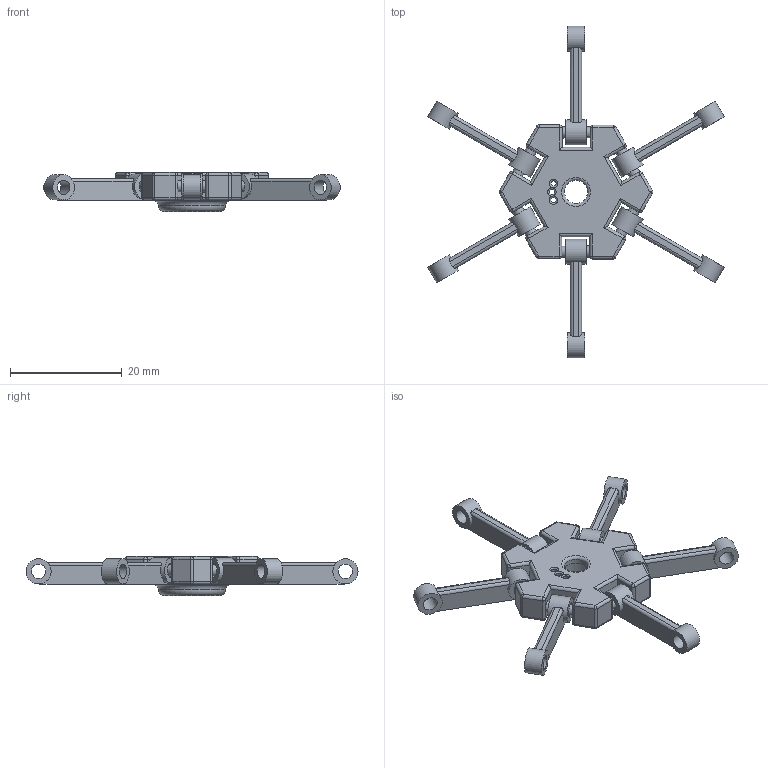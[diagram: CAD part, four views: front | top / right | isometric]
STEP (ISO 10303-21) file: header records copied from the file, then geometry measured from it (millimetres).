
FILE_DESCRIPTION(/* description */ (''),/* implementation_level */ '2;1');
FILE_NAME(/* name */ 'Linkage FP.step',/* time_stamp */ '2025-06-18T12:19:06+05:30',/* author */ (''),/* organization */ (''),/* preprocessor_version */ 'ST-DEVELOPER v20.1',/* originating_system */ 'Autodesk Translation Framework v14.10.0.0',/* authorisation */ '');
FILE_SCHEMA (('AUTOMOTIVE_DESIGN { 1 0 10303 214 3 1 1 }'));
Length unit declared in the file: millimetre
Products named in the file (8): (Unsaved); Component1; Component2; Component3; Component4; Component5; Component6; Component7
Assembly tree (7 placements, depth 2):
  (Unsaved)
    Component1
    Component2
    Component3
    Component4
    Component5
    Component6
    Component7
Bounding box: 53.1 x 59.47 x 7 mm (x, y, z)
Volume: 2905.8 mm3; surface area: 3694.3 mm2
Topology: 7 solids, 7 shells, 264 faces, 632 edges, 377 vertices
Faces by surface type: cylinder 126, plane 94, sphere 36, torus 8
Full cylindrical faces by diameter (mm): 1 x3, 2 x6, 2.6 x12, 4.18 x1, 4.5 x12, 7.21 x1, 10 x1
Entity records: 8172 total; most frequent: CARTESIAN_POINT 1641, DIRECTION 1406, ORIENTED_EDGE 1264, EDGE_CURVE 632, AXIS2_PLACEMENT_3D 544, VERTEX_POINT 377, LINE 318, VECTOR 318
